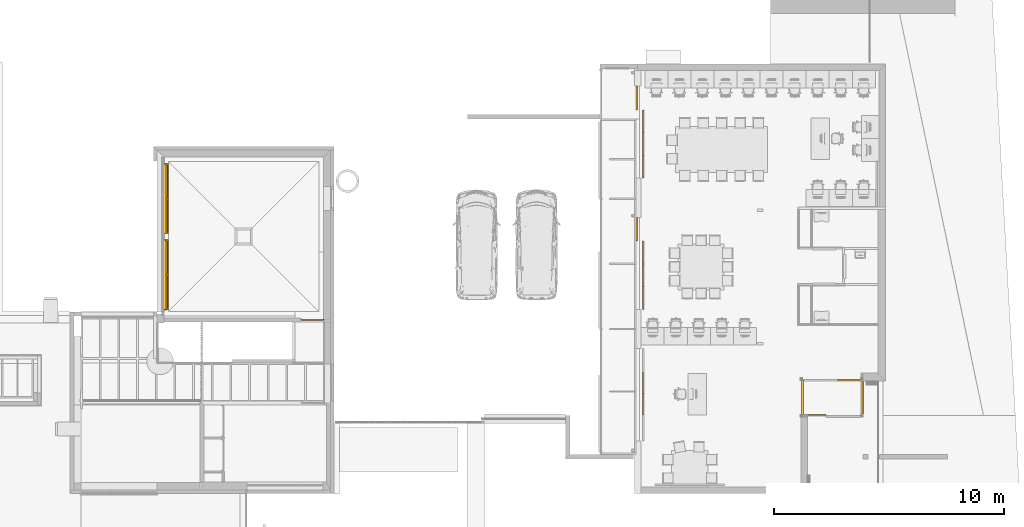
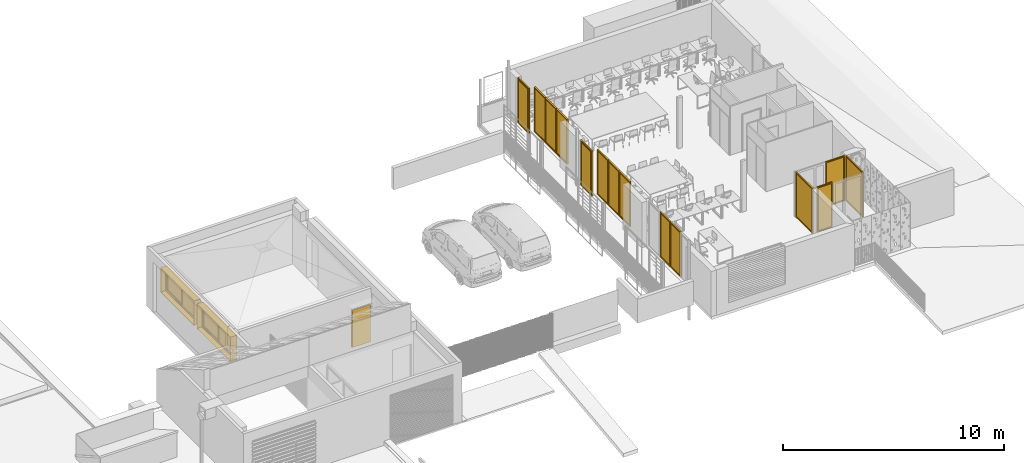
# One storey, part 28 of 51: 16 windows, 1 door.
"""IFC2X3 building model written with IfcOpenShell, lengths in metres."""

from ifc_helpers import new_model, entity, si_unit, converted_unit, derived_unit, direction, frame, frame_2d, origin, origin_2d_with_axis, place, context, subcontext, project, spatial, polyline, rectangle, outline, extrude, faceted_brep, source, transform, mapped, material, material_list, type_object, type_shapes, element, save


model = new_model("IFC2X3")

# Units and contexts
model_context = context("Model", 3, precision=1e-05, world=origin(), true_north=direction((6.123031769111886e-17, 1.0)))
body_context = subcontext(model_context, "Body", "Model", "MODEL_VIEW")
ifc_project = project(units=[si_unit("LENGTHUNIT", "METRE"), si_unit("AREAUNIT", "SQUARE_METRE"), si_unit("VOLUMEUNIT", "CUBIC_METRE"), converted_unit("PLANEANGLEUNIT", "DEGREE", entity("IfcRatioMeasure", 0.017453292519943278), si_unit("PLANEANGLEUNIT", "RADIAN"), dimensions=[0, 0, 0, 0, 0, 0, 0]), si_unit("MASSUNIT", "GRAM", prefix="KILO"), derived_unit("MASSDENSITYUNIT", [(si_unit("MASSUNIT", "GRAM", prefix="KILO"), 1), (si_unit("LENGTHUNIT", "METRE"), -3)]), derived_unit("MOMENTOFINERTIAUNIT", [(si_unit("LENGTHUNIT", "METRE"), 4)]), si_unit("TIMEUNIT", "SECOND"), si_unit("FREQUENCYUNIT", "HERTZ"), si_unit("THERMODYNAMICTEMPERATUREUNIT", "DEGREE_CELSIUS"), derived_unit("THERMALTRANSMITTANCEUNIT", [(si_unit("MASSUNIT", "GRAM", prefix="KILO"), 1), (si_unit("THERMODYNAMICTEMPERATUREUNIT", "KELVIN"), -1), (si_unit("TIMEUNIT", "SECOND"), -3)]), derived_unit("THERMALCONDUCTANCEUNIT", [(si_unit("MASSUNIT", "GRAM", prefix="KILO"), 1), (si_unit("LENGTHUNIT", "METRE"), 1), (si_unit("THERMODYNAMICTEMPERATUREUNIT", "KELVIN"), -1), (si_unit("TIMEUNIT", "SECOND"), -3)]), derived_unit("VOLUMETRICFLOWRATEUNIT", [(si_unit("LENGTHUNIT", "METRE"), 3), (si_unit("TIMEUNIT", "SECOND"), -1)]), derived_unit("MASSFLOWRATEUNIT", [(si_unit("MASSUNIT", "GRAM", prefix="KILO"), 1), (si_unit("TIMEUNIT", "SECOND"), -1)]), derived_unit("ROTATIONALFREQUENCYUNIT", [(si_unit("TIMEUNIT", "SECOND"), -1)]), si_unit("ELECTRICCURRENTUNIT", "AMPERE"), si_unit("ELECTRICVOLTAGEUNIT", "VOLT"), si_unit("POWERUNIT", "WATT"), si_unit("FORCEUNIT", "NEWTON", prefix="KILO"), si_unit("ILLUMINANCEUNIT", "LUX"), si_unit("LUMINOUSFLUXUNIT", "LUMEN"), si_unit("LUMINOUSINTENSITYUNIT", "CANDELA"), derived_unit("USERDEFINED", [(si_unit("MASSUNIT", "GRAM", prefix="KILO"), -1), (si_unit("LENGTHUNIT", "METRE"), -2), (si_unit("TIMEUNIT", "SECOND"), 3), (si_unit("LUMINOUSFLUXUNIT", "LUMEN"), 1)]), derived_unit("USERDEFINED", [(si_unit("MASSUNIT", "GRAM", prefix="KILO"), 1), (si_unit("LENGTHUNIT", "METRE"), 3), (si_unit("TIMEUNIT", "SECOND"), -3), (si_unit("ELECTRICCURRENTUNIT", "AMPERE"), -2)]), derived_unit("USERDEFINED", [(si_unit("LENGTHUNIT", "METRE"), 2), (si_unit("TIMEUNIT", "SECOND"), -2)]), derived_unit("SOUNDPOWERUNIT", [(si_unit("MASSUNIT", "GRAM", prefix="KILO"), 1), (si_unit("LENGTHUNIT", "METRE"), 2), (si_unit("TIMEUNIT", "SECOND"), -3)]), derived_unit("SOUNDPRESSUREUNIT", [(si_unit("MASSUNIT", "GRAM", prefix="KILO"), 1), (si_unit("LENGTHUNIT", "METRE"), -1), (si_unit("TIMEUNIT", "SECOND"), -2)]), derived_unit("LINEARVELOCITYUNIT", [(si_unit("LENGTHUNIT", "METRE"), 1), (si_unit("TIMEUNIT", "SECOND"), -1)]), si_unit("PRESSUREUNIT", "PASCAL"), derived_unit("USERDEFINED", [(si_unit("LENGTHUNIT", "METRE"), -2), (si_unit("MASSUNIT", "GRAM", prefix="KILO"), 1), (si_unit("TIMEUNIT", "SECOND"), -2)]), derived_unit("LINEARFORCEUNIT", [(si_unit("MASSUNIT", "GRAM", prefix="KILO"), 1), (si_unit("LENGTHUNIT", "METRE"), 1), (si_unit("TIMEUNIT", "SECOND"), -2), (si_unit("LENGTHUNIT", "METRE"), -1)]), derived_unit("PLANARFORCEUNIT", [(si_unit("MASSUNIT", "GRAM", prefix="KILO"), 1), (si_unit("LENGTHUNIT", "METRE"), 1), (si_unit("TIMEUNIT", "SECOND"), -2), (si_unit("LENGTHUNIT", "METRE"), -2)]), derived_unit("SPECIFICHEATCAPACITYUNIT", [(si_unit("LENGTHUNIT", "METRE"), 2), (si_unit("TIMEUNIT", "SECOND"), -2), (si_unit("THERMODYNAMICTEMPERATUREUNIT", "KELVIN"), -1)]), derived_unit("VAPORPERMEABILITYUNIT", [(si_unit("TIMEUNIT", "SECOND"), 1), (si_unit("LENGTHUNIT", "METRE"), -1)]), derived_unit("DYNAMICVISCOSITYUNIT", [(si_unit("MASSUNIT", "GRAM", prefix="KILO"), 1), (si_unit("LENGTHUNIT", "METRE"), -1), (si_unit("TIMEUNIT", "SECOND"), -1)]), derived_unit("THERMALEXPANSIONCOEFFICIENTUNIT", [(si_unit("THERMODYNAMICTEMPERATUREUNIT", "KELVIN"), -1)])], contexts=[model_context])

# Site, building, storey
site_placement = place(None, origin())
site = spatial("IfcSite", under=ifc_project, at=site_placement, Name="Default", CompositionType="ELEMENT")
building_placement = place(site_placement, origin())
building = spatial("IfcBuilding", under=site, at=building_placement, CompositionType="ELEMENT")
storey_placement = place(building_placement, frame((0.0, 0.0, 3.06)))
storey = spatial("IfcBuildingStorey", under=building, at=storey_placement, Name="ÉTAGE", CompositionType="ELEMENT", Elevation=3.06)

# Door
ifc_material_1 = material(Name="Peinture - Gris clair")
door_style = type_object("IfcDoorStyle", Name="Por-003", ConstructionType="NOTDEFINED", OperationType="SINGLE_SWING_LEFT", ParameterTakesPrecedence=False, Sizeable=False, material=ifc_material_1)
shared_shape_1 = source(origin(), body_context, "Body", "Brep", [
    faceted_brep([(0.0, -0.16319999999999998, 0.0), (0.0, -0.16319999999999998, 2.09), (1.0, -0.16319999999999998, 2.09), (1.0, -0.16319999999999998, 0.0), (0.965000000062, -0.16319999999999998, 0.0), (0.965000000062, -0.16319999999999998, 2.055), (0.03499999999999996, -0.16319999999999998, 2.055), (0.03499999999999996, -0.16319999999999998, 0.0), (0.0, -0.2132, 0.0), (0.0, -0.2132, 2.09), (1.0, -0.2132, 2.09), (1.0, -0.2132, 0.0), (0.9500000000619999, -0.2132, 0.0), (0.9500000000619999, -0.1782, 0.0), (0.965000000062, -0.1782, 0.0), (0.965000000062, -0.1782, 2.055), (0.03499999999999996, -0.1782, 2.055), (0.03499999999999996, -0.1782, 0.0), (0.05, -0.1782, 0.0), (0.05, -0.2132, 0.0), (0.9500000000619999, -0.2132, 2.04), (0.05, -0.2132, 2.04), (0.9500000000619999, -0.1782, 2.04), (0.05, -0.1782, 2.04), (0.03499999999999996, -0.1382, 0.0), (0.965000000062, -0.1382, 0.0), (0.03499999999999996, -0.1382, 2.055), (0.965000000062, -0.1382, 2.055)], [[[0, 1, 2, 3, 4, 5, 6, 7]], [[8, 9, 1, 0]], [[9, 10, 2, 1]], [[10, 11, 3, 2]], [[3, 11, 12, 13, 14, 4]], [[5, 4, 14, 15]], [[6, 5, 15, 16]], [[7, 6, 16, 17]], [[0, 7, 17, 18, 19, 8]], [[19, 8, 9, 10, 11, 12, 20, 21]], [[22, 13, 12, 20]], [[17, 16, 15, 14, 13, 22, 23, 18]], [[18, 23, 21, 19]], [[23, 22, 20, 21]], [[24, 25, 14, 17]], [[24, 26, 27, 25]], [[25, 27, 15, 14]], [[17, 14, 15, 16]], [[26, 24, 17, 16]], [[27, 26, 16, 15]]]),
])
type_shapes(door_style, [shared_shape_1])
door_placement = place(storey_placement, frame((127.925752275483, 14.964009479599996, 0.0), z_axis=(0.0, 0.0, 1.0), x_axis=(-1.0, 0.0, 0.0)))
element("IfcDoor", 1, at=door_placement, inside=storey, type_object=door_style, material=ifc_material_1, Name="Por-003 11722:Por-003 11722", ObjectType="Por-003 11722:Por-003 11722", OverallHeight=2.09, OverallWidth=1.0000000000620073, context=body_context, shape_type="MappedRepresentation", body=[
    mapped(shared_shape_1, transform((0.0, 0.0, 0.0), scale=1.0)),
])

# Windows
ifc_material_2 = material(Name="Peinture - Anthracite")
window_style_1 = type_object("IfcWindowStyle", Name="Fen-003", ConstructionType="NOTDEFINED", OperationType="NOTDEFINED", ParameterTakesPrecedence=False, Sizeable=False, material=ifc_material_2)
shared_shape_2 = source(origin(), body_context, "Body", "Brep", [
    faceted_brep([(0.0, -0.6633, 0.0), (0.0, -0.5633, 0.0), (3.0399999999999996, -0.5633, 0.0), (3.0399999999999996, -0.6633, 0.0), (0.0, -0.6633, 1.36), (0.0, -0.5633, 1.36), (3.0399999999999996, -0.5633, 1.36), (0.05, -0.5633, 0.06000000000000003), (2.9899999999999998, -0.5633, 0.06000000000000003), (2.9899999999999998, -0.5633, 1.31), (0.05, -0.5633, 1.31), (3.0399999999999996, -0.6633, 1.36), (0.05, -0.6633, 0.06000000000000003), (0.05, -0.6633, 1.31), (2.9899999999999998, -0.6633, 1.31), (2.9899999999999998, -0.6633, 0.06000000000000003), (0.05, -0.6133, 0.06000000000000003), (1.5550000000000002, -0.6133, 0.06000000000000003), (1.5550000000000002, -0.6133, 1.31), (0.05, -0.6133, 1.31), (1.4849999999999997, -0.6133, 1.24), (1.4849999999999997, -0.6133, 0.11000000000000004), (0.12000000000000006, -0.6133, 0.11000000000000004), (0.12000000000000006, -0.6133, 1.24), (1.5550000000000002, -0.5883, 0.06000000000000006), (0.05, -0.5883, 0.06000000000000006), (1.5550000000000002, -0.5633, 0.06000000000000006), (1.5549999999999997, -0.5883, 1.31), (1.5549999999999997, -0.5633, 1.31), (0.05, -0.5883, 1.31), (1.485, -0.5633, 1.24), (1.485, -0.5633, 0.11000000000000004), (0.12000000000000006, -0.5633, 0.11000000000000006), (0.12000000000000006, -0.5633, 1.24), (0.12000000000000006, -0.5932999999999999, 0.11000000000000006), (0.12000000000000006, -0.5832999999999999, 0.11000000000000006), (1.4849999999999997, -0.5832999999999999, 0.11000000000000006), (1.4849999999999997, -0.5932999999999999, 0.11000000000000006), (0.12000000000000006, -0.5932999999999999, 1.24), (0.12000000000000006, -0.5832999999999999, 1.24), (1.4849999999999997, -0.5832999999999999, 1.24), (1.485, -0.5932999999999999, 1.24), (1.4849999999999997, -0.6633, 0.06000000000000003), (1.4849999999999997, -0.6633, 1.31), (2.92, -0.6633, 1.24), (2.92, -0.6633, 0.11000000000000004), (1.5550000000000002, -0.6633, 0.11000000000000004), (1.5550000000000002, -0.6633, 1.24), (2.9899999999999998, -0.6383, 0.06000000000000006), (1.4849999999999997, -0.6383, 0.06000000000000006), (1.4849999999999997, -0.6133, 0.06000000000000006), (2.9899999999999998, -0.6133, 0.06000000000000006), (2.9899999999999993, -0.6383, 1.31), (2.9899999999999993, -0.6133, 1.31), (1.4849999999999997, -0.6133, 1.31), (1.4849999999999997, -0.6383, 1.31), (2.92, -0.6133, 1.24), (2.92, -0.6133, 0.11000000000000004), (1.5550000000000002, -0.6133, 0.11000000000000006), (1.5549999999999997, -0.6133, 1.24), (1.5550000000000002, -0.6433, 0.11000000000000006), (1.5550000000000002, -0.6333, 0.11000000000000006), (2.92, -0.6333, 0.11000000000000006), (2.92, -0.6433, 0.11000000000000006), (1.5549999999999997, -0.6433, 1.24), (1.5549999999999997, -0.6333, 1.24), (2.92, -0.6333, 1.24), (2.92, -0.6433, 1.24), (0.0, -0.5633, 1.3399999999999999), (3.0399999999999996, -0.5633, 1.3399999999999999), (0.0, -0.32330000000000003, 1.3399999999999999), (3.0399999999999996, -0.32330000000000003, 1.3399999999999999), (3.0399999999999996, -0.32330000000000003, 1.36), (0.0, -0.32330000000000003, 1.36), (0.020000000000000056, -0.5633, 0.020000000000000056), (0.020000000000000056, -0.32330000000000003, 0.020000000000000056), (0.020000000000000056, -0.32330000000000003, 1.3399999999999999), (0.020000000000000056, -0.5633, 1.3399999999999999), (0.0, -0.5633, 0.020000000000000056), (0.0, -0.32330000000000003, 0.020000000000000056), (3.0399999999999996, -0.5633, 0.020000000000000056), (3.0399999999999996, -0.32330000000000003, 0.020000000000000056), (3.02, -0.5633, 0.020000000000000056), (3.02, -0.32330000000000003, 0.020000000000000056), (3.02, -0.3232999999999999, 1.3399999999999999), (3.02, -0.5633, 1.3399999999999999), (0.0, -0.32330000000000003, 0.0), (3.0399999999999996, -0.32330000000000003, 0.0)], [[[0, 1, 2, 3]], [[4, 5, 1, 0]], [[1, 5, 6, 2], [7, 8, 9, 10]], [[3, 2, 6, 11]], [[0, 3, 11, 4], [12, 13, 14, 15]], [[11, 6, 5, 4]], [[15, 8, 7, 12]], [[14, 9, 8, 15]], [[13, 10, 9, 14]], [[12, 7, 10, 13]], [[16, 17, 18, 19], [20, 21, 22, 23]], [[24, 17, 16, 25, 7, 26]], [[27, 18, 17, 24, 26, 28]], [[28, 10, 29, 19, 18, 27]], [[10, 7, 25, 16, 19, 29]], [[20, 30, 31, 21]], [[31, 32, 22, 21]], [[32, 33, 23, 22]], [[23, 33, 30, 20]], [[28, 26, 7, 10], [31, 30, 33, 32]], [[16, 17, 18, 19], [22, 23, 20, 21]], [[7, 26, 28, 10], [32, 33, 30, 31]], [[34, 35, 36, 37]], [[38, 39, 35, 34]], [[35, 39, 40, 36]], [[37, 36, 40, 41]], [[34, 37, 41, 38]], [[41, 40, 39, 38]], [[42, 15, 14, 43], [44, 45, 46, 47]], [[48, 15, 42, 49, 50, 51]], [[52, 14, 15, 48, 51, 53]], [[53, 54, 55, 43, 14, 52]], [[54, 50, 49, 42, 43, 55]], [[44, 56, 57, 45]], [[57, 58, 46, 45]], [[58, 59, 47, 46]], [[47, 59, 56, 44]], [[53, 51, 50, 54], [57, 56, 59, 58]], [[42, 15, 14, 43], [46, 47, 44, 45]], [[50, 51, 53, 54], [58, 59, 56, 57]], [[60, 61, 62, 63]], [[64, 65, 61, 60]], [[61, 65, 66, 62]], [[63, 62, 66, 67]], [[60, 63, 67, 64]], [[67, 66, 65, 64]], [[68, 69, 6, 5]], [[68, 70, 71, 69]], [[69, 71, 72, 6]], [[5, 6, 72, 73]], [[70, 68, 5, 73]], [[71, 70, 73, 72]], [[68, 5, 6, 69]], [[70, 73, 72, 71]], [[74, 75, 76, 77]], [[74, 78, 79, 75]], [[75, 79, 70, 76]], [[77, 76, 70, 68]], [[78, 74, 77, 68]], [[79, 78, 68, 70]], [[80, 81, 71, 69]], [[80, 82, 83, 81]], [[81, 83, 84, 71]], [[69, 71, 84, 85]], [[82, 80, 69, 85]], [[83, 82, 85, 84]], [[1, 2, 80, 78]], [[1, 86, 87, 2]], [[2, 87, 81, 80]], [[78, 80, 81, 79]], [[86, 1, 78, 79]], [[87, 86, 79, 81]], [[1, 78, 80, 2]], [[86, 79, 81, 87]]]),
])
type_shapes(window_style_1, [shared_shape_2])
for number, where, z_axis, x_axis in (
    (2, (120.51245227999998, 15.567209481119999, 1.0799999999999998), (0.0, 0.0, 1.0), (0.0, 1.0, 0.0)),
    (3, (120.51245227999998, 18.86720948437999, 1.0799999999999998), (0.0, 0.0, 1.0), (0.0, 1.0, 0.0)),
):
    element("IfcWindow", number, at=place(storey_placement, frame(where, z_axis=z_axis, x_axis=x_axis)), inside=storey, type_object=window_style_1, material=ifc_material_2, Name="Fen-003 50040:Fen-003 50040", ObjectType="Fen-003 50040:Fen-003 50040", OverallHeight=1.36, OverallWidth=3.040000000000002, context=body_context, shape_type="MappedRepresentation", body=[
        mapped(shared_shape_2, transform((0.0, 0.0, 0.0), scale=1.0)),
    ])
ifc_material_3 = material(Name="Transp. - Verre clair (rapide)")
ifc_material_list = material_list([ifc_material_3, ifc_material_2])
window_style_2 = type_object("IfcWindowStyle", Name="Fen-003", ConstructionType="NOTDEFINED", OperationType="NOTDEFINED", ParameterTakesPrecedence=False, Sizeable=False, material=ifc_material_list)
shared_shape_3 = source(origin(), body_context, "Body", "SweptSolid", [
    extrude(rectangle(XDim=0.93, YDim=0.009999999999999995, at=frame_2d((0.0, -1.691355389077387e-17), x_axis=(1.0, 0.0))), frame((0.49499999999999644, -0.5277999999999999, 0.060099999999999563)), (0.0, 0.0, 1.0), 2.3899000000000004),
    extrude(outline(polyline([(-1.2499999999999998, -0.49499999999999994), (1.2499999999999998, -0.49499999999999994), (1.2499999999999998, 0.49499999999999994), (-1.2499999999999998, 0.49499999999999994), (-1.2499999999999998, -0.49499999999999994)]), holes=[polyline([(1.1899999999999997, 0.465), (1.19, -0.465), (-1.2000000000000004, -0.465), (-1.2000000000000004, 0.465), (1.1899999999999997, 0.465)])]), frame((0.49499999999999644, -0.5628, 1.2499999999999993), z_axis=(0.0, 1.0, 0.0), x_axis=(0.0, 0.0, -1.0)), (0.0, 0.0, 1.0), 0.07000000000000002),
])
type_shapes(window_style_2, [shared_shape_3])
for number, where, z_axis, x_axis in (
    (4, (141.25795228, 21.277209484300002, 1.2099999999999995), (0.0, 0.0, 1.0), (0.0, 1.0, 0.0)),
    (5, (141.25795228, 22.2672094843, 1.2099999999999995), (0.0, 0.0, 1.0), (0.0, 1.0, 0.0)),
    (6, (141.25795228, 15.577160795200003, 1.2099999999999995), (0.0, 0.0, 1.0), (0.0, 1.0, 0.0)),
    (7, (141.25795228, 16.567160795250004, 1.2099999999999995), (0.0, 0.0, 1.0), (0.0, 1.0, 0.0)),
):
    element("IfcWindow", number, at=place(storey_placement, frame(where, z_axis=z_axis, x_axis=x_axis)), inside=storey, type_object=window_style_2, material=ifc_material_list, Name="Fen-003 258897:Fen-003 258897", ObjectType="Fen-003 258897:Fen-003 258897", OverallHeight=2.5, OverallWidth=0.9900000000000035, context=body_context, shape_type="MappedRepresentation", body=[
        mapped(shared_shape_3, transform((0.0, 0.0, 0.0), scale=1.0)),
    ])
window_style_3 = type_object("IfcWindowStyle", Name="Fen-005", ConstructionType="NOTDEFINED", OperationType="NOTDEFINED", ParameterTakesPrecedence=False, Sizeable=False, material=ifc_material_list)
shared_shape_4 = source(origin(), body_context, "Body", "SweptSolid", [
    extrude(rectangle(XDim=0.93, YDim=0.009999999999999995, at=frame_2d((0.0, -1.691355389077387e-17), x_axis=(1.0, 0.0))), frame((0.49499999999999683, -0.5277999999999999, 0.060099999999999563)), (0.0, 0.0, 1.0), 2.3899000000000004),
    extrude(outline(polyline([(-1.2499999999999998, -0.49499999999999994), (1.2499999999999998, -0.49499999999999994), (1.2499999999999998, 0.49499999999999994), (-1.2499999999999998, 0.49499999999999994), (-1.2499999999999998, -0.49499999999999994)]), holes=[polyline([(1.1899999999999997, 0.465), (1.19, -0.465), (-1.2000000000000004, -0.465), (-1.2000000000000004, 0.465), (1.1899999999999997, 0.465)])]), frame((0.49499999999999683, -0.5628, 1.2499999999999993), z_axis=(0.0, 1.0, 0.0), x_axis=(0.0, 0.0, -1.0)), (0.0, 0.0, 1.0), 0.07000000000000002),
])
type_shapes(window_style_3, [shared_shape_4])
for number, where, z_axis, x_axis in (
    (8, (141.25795228, 23.257209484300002, 1.2099999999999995), (0.0, 0.0, 1.0), (0.0, 1.0, 0.0)),
    (9, (141.25795228, 17.55716079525, 1.2099999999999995), (0.0, 0.0, 1.0), (0.0, 1.0, 0.0)),
):
    element("IfcWindow", number, at=place(storey_placement, frame(where, z_axis=z_axis, x_axis=x_axis)), inside=storey, type_object=window_style_3, material=ifc_material_list, Name="Fen-005 259127:Fen-005 259127", ObjectType="Fen-005 259127:Fen-005 259127", OverallHeight=2.5, OverallWidth=0.9900000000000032, context=body_context, shape_type="MappedRepresentation", body=[
        mapped(shared_shape_4, transform((0.0, 0.0, 0.0), scale=1.0)),
    ])
window_style_4 = type_object("IfcWindowStyle", Name="Fen-003", ConstructionType="NOTDEFINED", OperationType="NOTDEFINED", ParameterTakesPrecedence=False, Sizeable=False, material=ifc_material_3)
shared_shape_5 = source(origin(), body_context, "Body", "Brep", [
    faceted_brep([(0.0, 0.21280000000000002, 0.0), (0.0, 0.2828, 0.0), (1.03, 0.2828, 0.0), (1.03, 0.21280000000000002, 0.0), (0.0, 0.21280000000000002, 2.499999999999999), (0.0, 0.2828, 2.499999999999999), (1.03, 0.2828, 2.499999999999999), (0.05, 0.2828, 0.0), (0.98, 0.2828, 0.0), (0.98, 0.2828, 2.4499999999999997), (0.05, 0.2828, 2.4499999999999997), (1.03, 0.21280000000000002, 2.499999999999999), (0.05, 0.21280000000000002, 0.0), (0.05, 0.21280000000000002, 2.4499999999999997), (0.98, 0.21280000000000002, 2.4499999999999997), (0.98, 0.21280000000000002, 0.0), (0.93, 0.21280000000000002, 2.399999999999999), (0.93, 0.21280000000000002, 0.04999999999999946), (0.10000000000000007, 0.21280000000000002, 0.04999999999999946), (0.10000000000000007, 0.21280000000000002, 2.399999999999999), (0.93, 0.2828, 2.399999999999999), (0.93, 0.2828, 0.04999999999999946), (0.10000000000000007, 0.2828, 0.04999999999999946), (0.10000000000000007, 0.2828, 2.399999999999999), (0.05, 0.24780000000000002, 2.4499999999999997), (0.05, 0.24780000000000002, 0.0), (0.98, 0.24780000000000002, 2.4499999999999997), (0.98, 0.24780000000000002, 0.0), (0.10000000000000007, 0.2428, 0.04999999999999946), (0.10000000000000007, 0.25279999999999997, 0.04999999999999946), (0.93, 0.25279999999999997, 0.04999999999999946), (0.93, 0.2428, 0.04999999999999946), (0.10000000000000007, 0.2428, 2.399999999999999), (0.10000000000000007, 0.25279999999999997, 2.399999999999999), (0.93, 0.25279999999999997, 2.399999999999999), (0.93, 0.2428, 2.399999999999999)], [[[0, 1, 2, 3]], [[4, 5, 1, 0]], [[1, 5, 6, 2], [7, 8, 9, 10]], [[3, 2, 6, 11]], [[0, 3, 11, 4], [12, 13, 14, 15]], [[11, 6, 5, 4]], [[15, 8, 7, 12]], [[14, 9, 8, 15]], [[13, 10, 9, 14]], [[12, 7, 10, 13]], [[14, 13, 12, 15], [16, 17, 18, 19]], [[14, 9, 10, 13]], [[10, 7, 12, 13]], [[7, 8, 15, 12]], [[15, 8, 9, 14]], [[16, 20, 21, 17]], [[21, 22, 18, 17]], [[22, 23, 19, 18]], [[19, 23, 20, 16]], [[10, 9, 8, 7], [21, 20, 23, 22]], [[12, 13, 24, 25]], [[15, 14, 26, 27]], [[12, 15, 27, 25]], [[13, 14, 26, 24]], [[25, 24, 10, 7]], [[27, 26, 9, 8]], [[25, 27, 8, 7]], [[24, 26, 9, 10]], [[28, 29, 30, 31]], [[32, 33, 29, 28]], [[29, 33, 34, 30]], [[31, 30, 34, 35]], [[28, 31, 35, 32]], [[35, 34, 33, 32]]]),
])
type_shapes(window_style_4, [shared_shape_5])
for number, where, z_axis, x_axis in (
    (10, (141.25795228, 25.277209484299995, 1.2099999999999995), (0.0, 0.0, 1.0), (0.0, -1.0, 0.0)),
    (11, (141.25795228, 19.577160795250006, 1.2099999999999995), (0.0, 0.0, 1.0), (0.0, -1.0, 0.0)),
):
    element("IfcWindow", number, at=place(storey_placement, frame(where, z_axis=z_axis, x_axis=x_axis)), inside=storey, type_object=window_style_4, material=ifc_material_3, Name="Fen-003 259573:Fen-003 259573", ObjectType="Fen-003 259573:Fen-003 259573", OverallHeight=2.5, OverallWidth=1.03, context=body_context, shape_type="MappedRepresentation", body=[
        mapped(shared_shape_5, transform((0.0, 0.0, 0.0), scale=1.0)),
    ])
window_style_5 = type_object("IfcWindowStyle", Name="Fen-003", ConstructionType="NOTDEFINED", OperationType="NOTDEFINED", ParameterTakesPrecedence=False, Sizeable=False, material=ifc_material_list)
shared_shape_6 = source(origin(), body_context, "Body", "SweptSolid", [
    extrude(rectangle(XDim=0.859951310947, YDim=0.009999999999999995, at=frame_2d((5.551115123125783e-17, -1.691355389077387e-17), x_axis=(1.0, 0.0))), frame((0.45997565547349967, -0.5277999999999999, 0.060099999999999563)), (0.0, 0.0, 1.0), 2.3899000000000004),
    extrude(outline(polyline([(-1.2499999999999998, -0.45997565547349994), (1.2499999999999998, -0.45997565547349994), (1.2499999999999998, 0.45997565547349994), (-1.2499999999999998, 0.45997565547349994), (-1.2499999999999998, -0.45997565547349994)]), holes=[polyline([(1.1899999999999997, 0.4299756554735), (1.19, -0.4299756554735), (-1.2000000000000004, -0.4299756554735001), (-1.2000000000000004, 0.4299756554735), (1.1899999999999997, 0.4299756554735)])]), frame((0.45997565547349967, -0.5628, 1.2499999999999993), z_axis=(0.0, 1.0, 0.0), x_axis=(0.0, 0.0, -1.0)), (0.0, 0.0, 1.0), 0.07000000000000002),
])
type_shapes(window_style_5, [shared_shape_6])
window_1_placement = place(storey_placement, frame((141.25795228, 11.007209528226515, 1.2099999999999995), z_axis=(0.0, 0.0, 1.0), x_axis=(0.0, 1.0, 0.0)))
element("IfcWindow", 12, at=window_1_placement, inside=storey, type_object=window_style_5, material=ifc_material_list, Name="Fen-003 259891:Fen-003 259891", ObjectType="Fen-003 259891:Fen-003 259891", OverallHeight=2.5, OverallWidth=0.9199513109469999, context=body_context, shape_type="MappedRepresentation", body=[
    mapped(shared_shape_6, transform((0.0, 0.0, 0.0), scale=1.0)),
])
window_style_6 = type_object("IfcWindowStyle", Name="Fen-003", ConstructionType="NOTDEFINED", OperationType="NOTDEFINED", ParameterTakesPrecedence=False, Sizeable=False, material=ifc_material_list)
shared_shape_7 = source(origin(), body_context, "Body", "SweptSolid", [
    extrude(rectangle(XDim=0.86, YDim=0.009999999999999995, at=frame_2d((2.7755575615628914e-17, -1.691355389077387e-17), x_axis=(1.0, 0.0))), frame((0.45999999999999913, -0.5277999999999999, 0.060099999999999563)), (0.0, 0.0, 1.0), 2.3899000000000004),
    extrude(outline(polyline([(-1.2499999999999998, -0.46), (1.2499999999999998, -0.46), (1.2499999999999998, 0.46), (-1.2499999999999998, 0.46), (-1.2499999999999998, -0.46)]), holes=[polyline([(1.1899999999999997, 0.43000000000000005), (1.19, -0.42999999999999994), (-1.2000000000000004, -0.43), (-1.2000000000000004, 0.42999999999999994), (1.1899999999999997, 0.43000000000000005)])]), frame((0.4599999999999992, -0.5628, 1.2499999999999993), z_axis=(0.0, 1.0, 0.0), x_axis=(0.0, 0.0, -1.0)), (0.0, 0.0, 1.0), 0.07000000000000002),
])
type_shapes(window_style_6, [shared_shape_7])
window_2_placement = place(storey_placement, frame((141.25795228, 11.9271608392, 1.2099999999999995), z_axis=(0.0, 0.0, 1.0), x_axis=(0.0, 1.0, 0.0)))
element("IfcWindow", 13, at=window_2_placement, inside=storey, type_object=window_style_6, material=ifc_material_list, Name="Fen-003 260073:Fen-003 260073", ObjectType="Fen-003 260073:Fen-003 260073", OverallHeight=2.5, OverallWidth=0.9200000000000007, context=body_context, shape_type="MappedRepresentation", body=[
    mapped(shared_shape_7, transform((0.0, 0.0, 0.0), scale=1.0)),
])
window_style_7 = type_object("IfcWindowStyle", Name="Fen-003", ConstructionType="NOTDEFINED", OperationType="NOTDEFINED", ParameterTakesPrecedence=False, Sizeable=False, material=ifc_material_list)
shared_shape_8 = source(origin(), body_context, "Body", "SweptSolid", [
    extrude(rectangle(XDim=0.9099999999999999, YDim=0.010000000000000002, at=origin_2d_with_axis()), frame((0.5050000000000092, 0.0357, 0.060099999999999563)), (0.0, 0.0, 1.0), 2.3899000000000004),
    extrude(outline(polyline([(-1.2499999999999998, -0.505), (1.2499999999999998, -0.505), (1.2499999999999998, 0.505), (-1.2499999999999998, 0.505), (-1.2499999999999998, -0.505)]), holes=[polyline([(1.1899999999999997, 0.45499999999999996), (1.19, -0.45499999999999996), (-1.2000000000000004, -0.45499999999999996), (-1.2000000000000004, 0.45499999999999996), (1.1899999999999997, 0.45499999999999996)])]), frame((0.5050000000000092, 0.0007000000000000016, 1.2499999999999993), z_axis=(0.0, 1.0, 0.0), x_axis=(0.0, 0.0, -1.0)), (0.0, 0.0, 1.0), 0.07),
])
type_shapes(window_style_7, [shared_shape_8])
window_3_placement = place(storey_placement, frame((150.22075227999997, 12.481509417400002, 1.2099999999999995)))
element("IfcWindow", 14, at=window_3_placement, inside=storey, type_object=window_style_7, material=ifc_material_list, Name="Fen-003 277214:Fen-003 277214", ObjectType="Fen-003 277214:Fen-003 277214", OverallHeight=2.5, OverallWidth=1.0100000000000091, context=body_context, shape_type="MappedRepresentation", body=[
    mapped(shared_shape_8, transform((0.0, 0.0, 0.0), scale=1.0)),
])
window_style_8 = type_object("IfcWindowStyle", Name="Fen-003", ConstructionType="NOTDEFINED", OperationType="NOTDEFINED", ParameterTakesPrecedence=False, Sizeable=False, material=ifc_material_list)
shared_shape_9 = source(origin(), body_context, "Body", "SweptSolid", [
    extrude(rectangle(XDim=1.4299998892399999, YDim=0.010000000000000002, at=origin_2d_with_axis()), frame((0.76499994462, -0.0357, 0.060099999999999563), z_axis=(0.0, 0.0, 1.0), x_axis=(-1.0, 0.0, 0.0)), (0.0, 0.0, 1.0), 2.3899000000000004),
    extrude(outline(polyline([(-0.76499994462, -1.2499999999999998), (0.76499994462, -1.2499999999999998), (0.76499994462, 1.2499999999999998), (-0.76499994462, 1.2499999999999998), (-0.76499994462, -1.2499999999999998)]), holes=[polyline([(0.7149999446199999, 1.2000000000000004), (0.7149999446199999, -1.19), (-0.7149999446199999, -1.19), (-0.7149999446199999, 1.2000000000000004), (0.7149999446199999, 1.2000000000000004)])]), frame((0.76499994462, -0.0707, 1.2499999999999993), z_axis=(0.0, 1.0, 0.0), x_axis=(-1.0, 0.0, 0.0)), (0.0, 0.0, 1.0), 0.07),
])
type_shapes(window_style_8, [shared_shape_9])
window_4_placement = place(storey_placement, frame((148.72645228, 12.517209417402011, 1.2099999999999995), z_axis=(0.0, 0.0, 1.0), x_axis=(0.0, -1.0, 0.0)))
element("IfcWindow", 15, at=window_4_placement, inside=storey, type_object=window_style_8, material=ifc_material_list, Name="Fen-003 277554:Fen-003 277554", ObjectType="Fen-003 277554:Fen-003 277554", OverallHeight=2.5, OverallWidth=1.52999988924, context=body_context, shape_type="MappedRepresentation", body=[
    mapped(shared_shape_9, transform((0.0, 0.0, 0.0), scale=1.0)),
])
window_style_9 = type_object("IfcWindowStyle", Name="Fen-004", ConstructionType="NOTDEFINED", OperationType="NOTDEFINED", ParameterTakesPrecedence=False, Sizeable=False, material=ifc_material_list)
shared_shape_10 = source(origin(), body_context, "Body", "SweptSolid", [
    extrude(rectangle(XDim=0.7, YDim=0.010000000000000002, at=origin_2d_with_axis()), frame((0.3999999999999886, 0.0357, 0.060099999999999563)), (0.0, 0.0, 1.0), 2.3899000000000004),
    extrude(outline(polyline([(-1.2499999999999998, -0.4), (1.2499999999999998, -0.4), (1.2499999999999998, 0.4), (-1.2499999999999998, 0.4), (-1.2499999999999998, -0.4)]), holes=[polyline([(1.1899999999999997, 0.35000000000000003), (1.19, -0.34999999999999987), (-1.2000000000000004, -0.34999999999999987), (-1.2000000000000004, 0.35000000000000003), (1.1899999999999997, 0.35000000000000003)])]), frame((0.39999999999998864, 0.0007000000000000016, 1.2499999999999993), z_axis=(0.0, 1.0, 0.0), x_axis=(0.0, 0.0, -1.0)), (0.0, 0.0, 1.0), 0.07),
])
type_shapes(window_style_9, [shared_shape_10])
window_5_placement = place(storey_placement, frame((149.70075231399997, 11.022909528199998, 1.2099999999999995), z_axis=(0.0, 0.0, 1.0), x_axis=(-1.0, 0.0, 0.0)))
element("IfcWindow", 16, at=window_5_placement, inside=storey, type_object=window_style_9, material=ifc_material_list, Name="Fen-004 278724:Fen-004 278724", ObjectType="Fen-004 278724:Fen-004 278724", OverallHeight=2.5, OverallWidth=0.8000000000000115, context=body_context, shape_type="MappedRepresentation", body=[
    mapped(shared_shape_10, transform((0.0, 0.0, 0.0), scale=1.0)),
])
window_style_10 = type_object("IfcWindowStyle", Name="Fen-003", ConstructionType="NOTDEFINED", OperationType="NOTDEFINED", ParameterTakesPrecedence=False, Sizeable=False, material=ifc_material_list)
shared_shape_11 = source(origin(), body_context, "Body", "SweptSolid", [
    extrude(rectangle(XDim=1.3999998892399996, YDim=0.010000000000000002, at=origin_2d_with_axis()), frame((0.7499999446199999, -0.1057, 0.060099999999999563)), (0.0, 0.0, 1.0), 2.3899000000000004),
    extrude(outline(polyline([(-1.2499999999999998, -0.74999994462), (1.2499999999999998, -0.74999994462), (1.2499999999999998, 0.74999994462), (-1.2499999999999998, 0.74999994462), (-1.2499999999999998, -0.74999994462)]), holes=[polyline([(1.1899999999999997, 0.69999994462), (1.19, -0.6999999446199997), (-1.2000000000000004, -0.6999999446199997), (-1.2000000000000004, 0.69999994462), (1.1899999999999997, 0.69999994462)])]), frame((0.74999994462, -0.1407, 1.2499999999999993), z_axis=(0.0, 1.0, 0.0), x_axis=(0.0, 0.0, -1.0)), (0.0, 0.0, 1.0), 0.07),
])
type_shapes(window_style_10, [shared_shape_11])
window_6_placement = place(storey_placement, frame((151.19505227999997, 10.98720952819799, 1.2099999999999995), z_axis=(0.0, 0.0, 1.0), x_axis=(0.0, 1.0, 0.0)))
element("IfcWindow", 17, at=window_6_placement, inside=storey, type_object=window_style_10, material=ifc_material_list, Name="Fen-003 279195:Fen-003 279195", ObjectType="Fen-003 279195:Fen-003 279195", OverallHeight=2.5, OverallWidth=1.4999998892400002, context=body_context, shape_type="MappedRepresentation", body=[
    mapped(shared_shape_11, transform((0.0, 0.0, 0.0), scale=1.0)),
])

save(model, "model.ifc")
